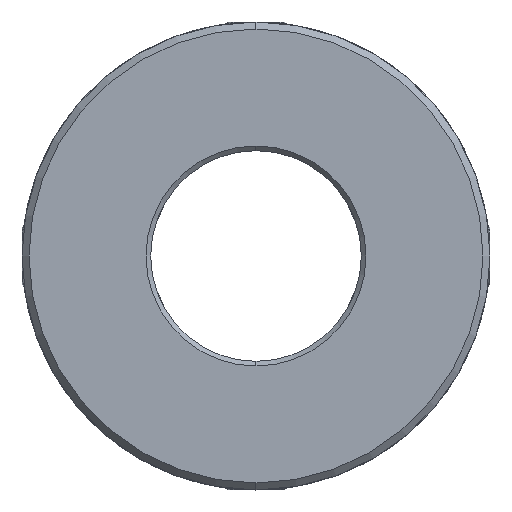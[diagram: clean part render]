
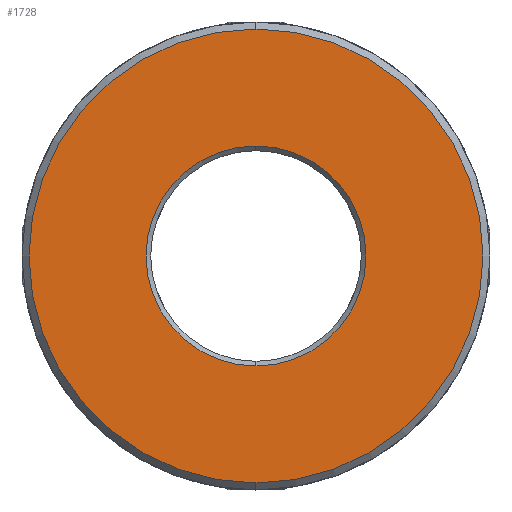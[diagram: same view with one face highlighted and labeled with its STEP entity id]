
A CAD part, front view. The second image highlights one B-rep face of the part: STEP entity #1728.
In plain terms, the highlighted planar face has unit normal (0, -1, 0).
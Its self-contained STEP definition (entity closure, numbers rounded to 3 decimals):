
#452 = VERTEX_POINT ( 'NONE', #7517 ) ;
#474 = AXIS2_PLACEMENT_3D ( 'NONE', #5109, #3335, #7516 ) ;
#544 = DIRECTION ( 'NONE',  ( 0., 0., 1. ) ) ;
#601 = EDGE_LOOP ( 'NONE', ( #2645, #3023 ) ) ;
#648 = EDGE_CURVE ( 'NONE', #6553, #452, #1584, .T. ) ;
#707 = FACE_BOUND ( 'NONE', #601, .T. ) ;
#840 = DIRECTION ( 'NONE',  ( 0., -1., 0. ) ) ;
#1233 = EDGE_LOOP ( 'NONE', ( #5952, #4351 ) ) ;
#1389 = DIRECTION ( 'NONE',  ( 0., -1., 0. ) ) ;
#1584 = CIRCLE ( 'NONE', #6852, 9.4 ) ;
#1612 = CARTESIAN_POINT ( 'NONE',  ( 0., 0., -19.4 ) ) ;
#1728 = ADVANCED_FACE ( 'NONE', ( #707, #5593 ), #4512, .F. ) ;
#1900 = DIRECTION ( 'NONE',  ( 0., 1., 0. ) ) ;
#2443 = AXIS2_PLACEMENT_3D ( 'NONE', #4274, #6085, #6676 ) ;
#2645 = ORIENTED_EDGE ( 'NONE', *, *, #4973, .T. ) ;
#2912 = AXIS2_PLACEMENT_3D ( 'NONE', #4367, #1389, #3065 ) ;
#3023 = ORIENTED_EDGE ( 'NONE', *, *, #648, .T. ) ;
#3065 = DIRECTION ( 'NONE',  ( 0., 0., 1. ) ) ;
#3335 = DIRECTION ( 'NONE',  ( 0., 1., 0. ) ) ;
#4274 = CARTESIAN_POINT ( 'NONE',  ( 0., 0., 0. ) ) ;
#4351 = ORIENTED_EDGE ( 'NONE', *, *, #5101, .T. ) ;
#4367 = CARTESIAN_POINT ( 'NONE',  ( 0., 0., 0. ) ) ;
#4429 = CARTESIAN_POINT ( 'NONE',  ( 0., 0., 0. ) ) ;
#4512 = PLANE ( 'NONE',  #474 ) ;
#4708 = AXIS2_PLACEMENT_3D ( 'NONE', #4429, #840, #5036 ) ;
#4895 = VERTEX_POINT ( 'NONE', #6602 ) ;
#4973 = EDGE_CURVE ( 'NONE', #452, #6553, #6817, .T. ) ;
#5036 = DIRECTION ( 'NONE',  ( 0., 0., 1. ) ) ;
#5101 = EDGE_CURVE ( 'NONE', #5640, #4895, #6515, .T. ) ;
#5109 = CARTESIAN_POINT ( 'NONE',  ( 24.74, 0., -50. ) ) ;
#5331 = CARTESIAN_POINT ( 'NONE',  ( 0., 0., 0. ) ) ;
#5457 = CARTESIAN_POINT ( 'NONE',  ( 0., 0., 9.4 ) ) ;
#5593 = FACE_OUTER_BOUND ( 'NONE', #1233, .T. ) ;
#5640 = VERTEX_POINT ( 'NONE', #1612 ) ;
#5952 = ORIENTED_EDGE ( 'NONE', *, *, #5976, .T. ) ;
#5976 = EDGE_CURVE ( 'NONE', #4895, #5640, #6029, .T. ) ;
#6029 = CIRCLE ( 'NONE', #2912, 19.4 ) ;
#6085 = DIRECTION ( 'NONE',  ( 0., 1., 0. ) ) ;
#6515 = CIRCLE ( 'NONE', #4708, 19.4 ) ;
#6553 = VERTEX_POINT ( 'NONE', #5457 ) ;
#6602 = CARTESIAN_POINT ( 'NONE',  ( 0., 0., 19.4 ) ) ;
#6676 = DIRECTION ( 'NONE',  ( 0., 0., 1. ) ) ;
#6817 = CIRCLE ( 'NONE', #2443, 9.4 ) ;
#6852 = AXIS2_PLACEMENT_3D ( 'NONE', #5331, #1900, #544 ) ;
#7516 = DIRECTION ( 'NONE',  ( 0., 0., 1. ) ) ;
#7517 = CARTESIAN_POINT ( 'NONE',  ( 0., 0., -9.4 ) ) ;
